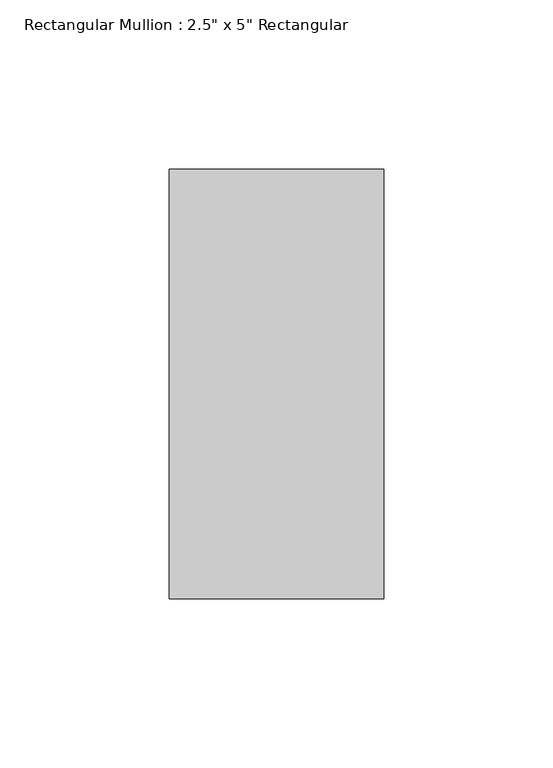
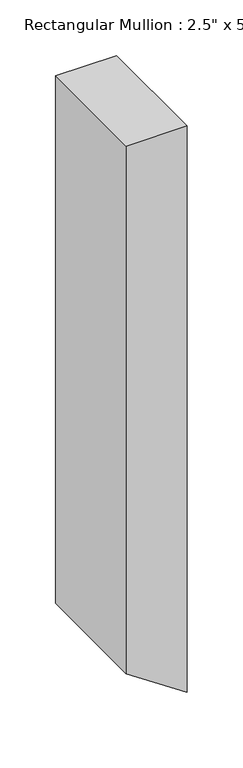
"""IFC4 building model written with IfcOpenShell, lengths in millimetres: member geometry."""

from ifc_helpers import new_model, si_unit, frame, origin, place, context, project, spatial, polyline, outline, extrude, source, transform, mapped, element, save


def member_8ee6d85e(model_context):
    return source(origin(), model_context, "Body", "SweptSolid", [
        extrude(outline(polyline([(0.0, 0.0), (0.0, -63.5), (-578.9956067, -63.5), (-621.6, 0.0), (0.0, 0.0)])), frame((0.0, -63.5, 0.0), z_axis=(0.0, 1.0, 0.0), x_axis=(0.0, 0.0, 1.0)), (0.0, 0.0, 1.0), 127.0),
    ])


if __name__ == "__main__":
    model = new_model("IFC4")
    model_context = context("Model", 3, world=origin())
    ifc_project = project(units=[si_unit("LENGTHUNIT", "METRE", prefix="MILLI")], contexts=[model_context])
    site = spatial("IfcSite", under=ifc_project)
    building = spatial("IfcBuilding", under=site)
    placement = place(None, origin())
    member_shape = member_8ee6d85e(model_context)
    element("IfcMember", 1, ObjectType="Rectangular Mullion : 2.5\" x 5\" Rectangular", at=placement, inside=building, context=model_context, shape_type="MappedRepresentation", body=[
        mapped(member_shape, transform((0.0, 0.0, 0.0), x_axis=(1.0, 0.0, 0.0), y_axis=(0.0, 1.0, 0.0), z_axis=(0.0, 0.0, 1.0))),
    ])
    save(model, "model.ifc")
